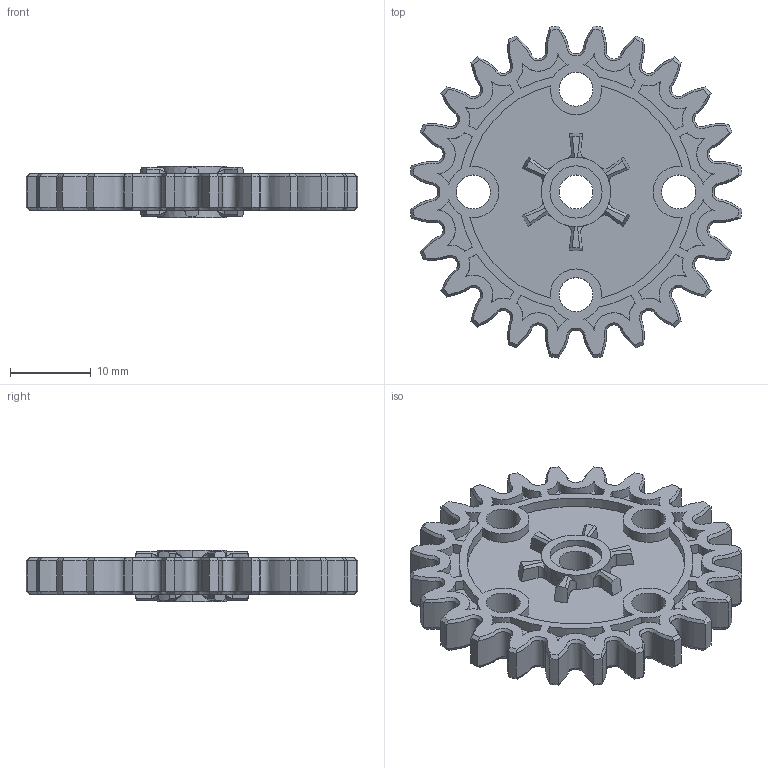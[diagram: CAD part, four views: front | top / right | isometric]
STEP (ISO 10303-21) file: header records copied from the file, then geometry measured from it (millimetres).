
FILE_DESCRIPTION (( 'STEP AP203' ), '1' );
FILE_NAME ('228-2500-2191.STEP', '2021-02-18T20:19:59', ( '' ), ( '' ), 'SwSTEP 2.0', 'SolidWorks 2019', '' );
FILE_SCHEMA (( 'CONFIG_CONTROL_DESIGN' ));
Products named in the file (1): 228-2500-2191
Bounding box: 41.05 x 41.05 x 6.35 mm (x, y, z)
Volume: 3501.6 mm3; surface area: 4519.3 mm2
Topology: 1 solids, 1 shells, 468 faces, 1212 edges, 776 vertices
Faces by surface type: bspline 144, cylinder 140, plane 124, cone 60
Entity records: 60249 total; most frequent: CARTESIAN_POINT 49761, ORIENTED_EDGE 2424, DIRECTION 1790, EDGE_CURVE 1212, VERTEX_POINT 776, AXIS2_PLACEMENT_3D 669, EDGE_LOOP 508, FACE_OUTER_BOUND 468
